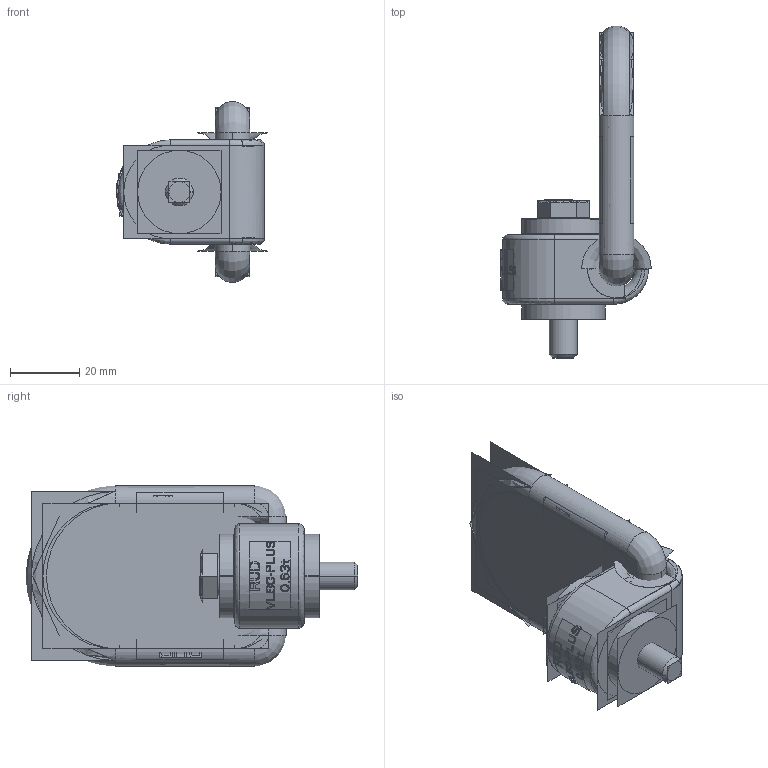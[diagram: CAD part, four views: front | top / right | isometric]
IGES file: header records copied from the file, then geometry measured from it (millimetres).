
Start section:  PTC IGES file: VLBG-PLUS-M8-0,63t-8504651-M35328-P-1.igs
Bounding box: 43.3 x 95.58 x 52 mm (x, y, z)
Volume: 38660.7 mm3; surface area: 94405.4 mm2
Topology: 3 solids, 3 shells, 1756 faces, 8552 edges, 10330 vertices
Faces by surface type: bspline 1586, revolution 170
